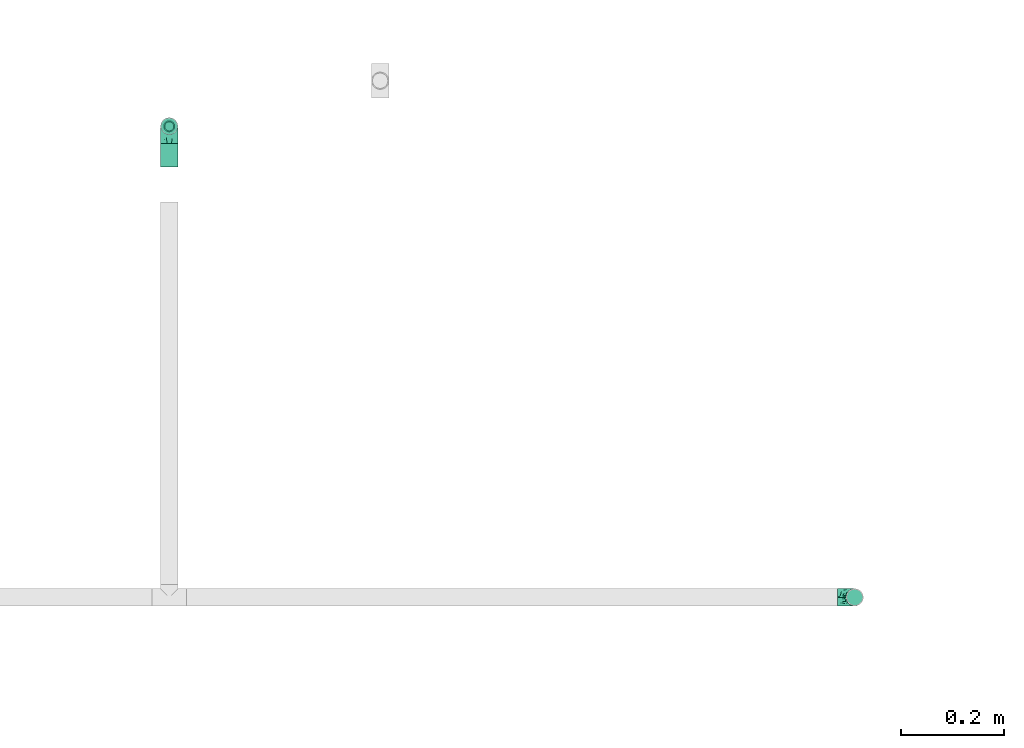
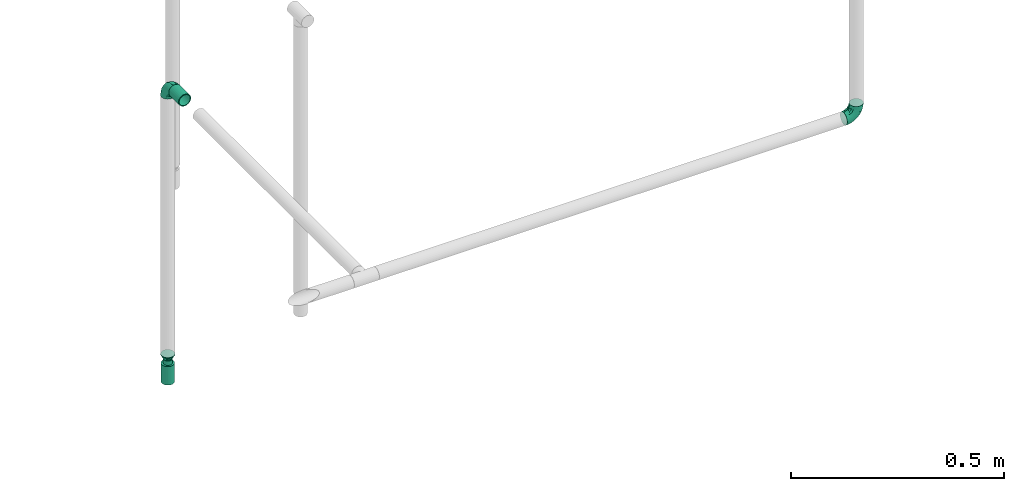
# One storey, part 51 of 94: 3 flow fittings, 2 flow segments, 1 flow terminal.
"""IFC2X3 building model written with IfcOpenShell, lengths in millimetres."""

from ifc_helpers import new_model, entity, si_unit, converted_unit, derived_unit, direction, frame, origin_with_axes, origin_2d_with_axis, place, context, subcontext, project, spatial, hollow_circle, extrude, open_shell, surface_model, source, transform, mapped, type_object, element, save


model = new_model("IFC2X3")

# Units and contexts
model_context = context("Model", 3, precision=0.01, world=frame((0.0, 4.29681676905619e-09, 0.0)), true_north=direction((4.01073788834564e-13, 1.0)))
plan_context = context("Plan", 3, precision=0.01, world=frame((0.0, 4.29681676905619e-09, 0.0)), true_north=direction((4.01073788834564e-13, 1.0)))
body_context = subcontext(model_context, "Body", "Model", "MODEL_VIEW")
ifc_project = project(units=[converted_unit("PLANEANGLEUNIT", "DEGREE", entity("IfcPositiveLengthMeasure", 0.0174532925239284), si_unit("PLANEANGLEUNIT", "RADIAN"), dimensions=[0, 0, 0, 0, 0, 0, 0]), si_unit("AREAUNIT", "SQUARE_METRE"), si_unit("LENGTHUNIT", "METRE", prefix="MILLI"), si_unit("MASSUNIT", "GRAM", prefix="KILO"), si_unit("POWERUNIT", "WATT"), si_unit("PRESSUREUNIT", "PASCAL", prefix="KILO"), si_unit("FORCEUNIT", "NEWTON", prefix="KILO"), si_unit("ELECTRICVOLTAGEUNIT", "VOLT"), si_unit("ELECTRICCURRENTUNIT", "AMPERE"), si_unit("THERMODYNAMICTEMPERATUREUNIT", "DEGREE_CELSIUS"), si_unit("TIMEUNIT", "SECOND"), si_unit("VOLUMEUNIT", "CUBIC_METRE"), derived_unit("LINEARVELOCITYUNIT", [(si_unit("LENGTHUNIT", "METRE"), 1), (si_unit("TIMEUNIT", "SECOND"), -1)]), derived_unit("VOLUMETRICFLOWRATEUNIT", [(si_unit("VOLUMEUNIT", "CUBIC_METRE"), 1), (si_unit("TIMEUNIT", "SECOND"), -1)]), derived_unit("THERMALTRANSMITTANCEUNIT", [(si_unit("POWERUNIT", "WATT"), 1), (si_unit("THERMODYNAMICTEMPERATUREUNIT", "KELVIN"), -1), (si_unit("AREAUNIT", "SQUARE_METRE"), -1)]), derived_unit("SOUNDPRESSUREUNIT", [(si_unit("PRESSUREUNIT", "PASCAL"), 1)])], contexts=[model_context, plan_context])

# Site, building, storey
site_placement = place(None, frame((0.0, -4.29681676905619e-09, 0.0), z_axis=(0.0, 0.0, 1.0), x_axis=(1.0, 0.0, 0.0)))
site = spatial("IfcSite", under=ifc_project, at=site_placement, CompositionType="ELEMENT")
building_placement = place(site_placement, frame((0.0, 4.29681676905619e-09, 0.0), z_axis=(0.0, 0.0, 1.0), x_axis=(1.0, 0.0, 0.0)))
building = spatial("IfcBuilding", under=site, at=building_placement, Name="mc-building", CompositionType="ELEMENT")
storey_placement = place(building_placement, frame((0.0, 0.0, 210900.0), z_axis=(0.0, 0.0, 1.0), x_axis=(1.0, 0.0, 0.0)))
storey = spatial("IfcBuildingStorey", under=building, at=storey_placement, Name="Nivå F", CompositionType="ELEMENT", Elevation=210900.0)

# Flow fittings
pipe_fitting_type_1 = type_object("IfcPipeFittingType", Name="magi_pipe_fe_elbow_short_001", PredefinedType="BEND")
shared_shape_1 = source(origin_with_axes(), body_context, "Body", "SurfaceModel", [
    surface_model("IfcShellBasedSurfaceModel", [(-33.8, 8.45, -14.63583), (-33.8, 4.37404, -16.32415), (-33.8, 11.9501, -11.9501), (-33.8, -11.9501, -11.9501), (-33.8, -14.63583, -8.45), (-33.8, -8.45, -14.63583), (-33.8, 0.0, -16.9), (-33.8, -4.37404, -16.32415), (-33.8, -4.37404, 16.32415), (-33.8, 0.0, 16.9), (-33.8, -8.45, 14.63583), (-33.8, 16.32415, -4.37404), (-33.8, 14.63583, -8.45), (-33.8, -16.32415, -4.37404), (-33.8, -16.9, 0.0), (-33.8, -16.32415, 4.37404), (-33.8, 11.9501, 11.9501), (-33.8, 14.63583, 8.45), (-33.8, 16.32415, 4.37404), (-33.8, 4.37404, 16.32415), (-33.8, 8.45, 14.63583), (-33.8, -14.63583, 8.45), (-33.8, -11.9501, 11.9501), (-33.8, 16.9, 0.0), (-11.9501, 33.8, -11.9501), (0.0, 33.8, -16.9), (-4.37404, 33.8, -16.32415), (-8.45, 33.8, -14.63583), (-14.63583, 33.8, -8.45), (-16.32415, 33.8, -4.37404), (14.63583, 33.8, -8.45), (8.45, 33.8, 14.63583), (16.32415, 33.8, -4.37404), (8.45, 33.8, -14.63583), (11.9501, 33.8, -11.9501), (4.37404, 33.8, -16.32415), (16.32415, 33.8, 4.37404), (16.9, 33.8, 0.0), (-11.9501, 33.8, 11.9501), (-16.32415, 33.8, 4.37404), (-14.63583, 33.8, 8.45), (-8.45, 33.8, 14.63583), (-4.37404, 33.8, 16.32415), (11.9501, 33.8, 11.9501), (14.63583, 33.8, 8.45), (0.0, 33.8, 16.9), (4.37404, 33.8, 16.32415), (-16.9, 33.8, 0.0), (-24.79389, -13.12945, 9.48721), (-22.19287, -9.75018, 12.59315), (-24.09897, -14.97035, 0.0), (-14.93934, -10.76256, 8.5297), (-22.46095, -14.75051, 5.27077), (14.75051, 22.46094, 5.27077), (11.9251, 13.23888, 4.33236), (13.04069, 14.39795, 0.0), (7.71387, 13.68847, 11.55891), (9.75018, 22.19287, 12.59315), (4.10169, 13.0571, 14.04018), (-24.84007, -6.39063, 15.2048), (-25.81779, -2.23879, 16.61097), (-23.66549, 2.59054, 16.87119), (-26.50418, 14.06512, 11.08152), (-24.21253, 17.66365, 7.72657), (-29.58514, 15.86957, 7.00283), (-6.17382, -7.5455, 0.0), (-13.23888, -11.9251, 4.33236), (-14.39795, -13.04069, 0.0), (-17.81434, 18.87373, 11.97104), (-6.30846, 29.15138, 15.82987), (-2.31622, 25.28002, 16.85849), (-29.23923, 10.23435, 13.77053), (-1.45439, -2.85688, 7.61475), (-0.28326, 0.34872, 10.09509), (-5.74484, -4.04709, 10.4122), (-4.41137, 11.31918, 16.59407), (-8.39727, 3.10034, 15.7812), (-1.72649, 9.1306, 15.53089), (-17.39909, 24.75344, 7.64977), (-26.19233, 20.0512, 0.0), (-28.14518, 17.29657, 4.25857), (-26.05147, 6.6281, 15.96447), (-5.87354, 16.61944, 16.86968), (-12.51807, 12.51807, 16.48937), (-10.06312, 7.38516, 16.81295), (-3.01882, 3.01882, 13.81718), (-13.0571, -4.10169, 14.04018), (-16.82553, -0.15166, 16.38038), (10.76256, 14.93934, 8.5297), (13.12945, 24.79389, 9.48721), (6.39063, 24.84007, 15.2048), (2.23879, 25.81779, 16.61097), (-13.68847, -7.71387, 11.55891), (14.97035, 24.09897, 0.0), (-7.30894, 22.89991, 16.09489), (-10.67958, 26.17414, 14.008), (-12.78295, 18.26924, 15.06066), (-13.88562, 22.45231, 12.93244), (-18.04944, 15.16501, 14.04434), (-23.11658, 20.08178, 4.02986), (-21.84989, 21.84989, 0.0), (-18.55817, 25.48277, 3.93065), (-13.95142, 26.94732, 11.03289), (-18.57098, 7.23906, 16.59756), (-16.58335, 4.14122, 16.89279), (-17.96666, 11.46709, 15.63151), (-9.84453, 17.54304, 16.18938), (0.15166, 16.82553, 16.38038), (-23.27207, 11.47201, 14.23154), (3.84842, 5.86994, 10.70473), (-8.0212, -7.54413, 7.93275), (1.00345, -2.19508, 4.57414), (5.13203, 3.01004, 5.90201), (5.24161, 1.7543, 2.53265), (8.70457, 7.04947, 3.99182), (-20.0512, 26.19233, 0.0), (8.4852, 8.76699, 7.09296), (-4.55488, -6.72064, 4.90681), (2.05031, -2.05031, 0.0), (7.5455, 6.17382, 0.0), (-26.75399, 2.1369, -16.845), (-14.61995, 24.73803, -11.27736), (-28.45274, -13.45335, -9.81895), (-26.00469, 6.63555, -15.96645), (-23.06726, 20.04573, -4.26202), (-13.80647, -4.26506, -14.17873), (-14.67501, -0.21081, -16.07388), (-6.7902, -0.2828, -13.8478), (-24.53586, 11.08096, -14.13417), (-26.72048, 14.00837, -11.05776), (10.0967, 24.44989, -12.75976), (5.83237, 21.40218, -15.03047), (6.66249, 28.54238, -15.38093), (-20.38182, 15.48705, -12.74596), (12.53268, 21.23441, -9.15363), (12.54494, 15.67504, -5.54878), (9.7522, 12.89279, -8.66343), (-15.65186, 19.64213, -13.01327), (-12.03528, 20.66498, -14.67665), (-15.61907, 15.61906, -14.83879), (-25.56551, -15.26206, 0.0), (-24.65452, -15.12934, -5.50955), (13.45335, 28.45274, -9.81895), (15.12934, 24.65452, -5.50955), (-7.35442, -8.31014, -5.65563), (-15.67504, -12.54494, -5.54878), (-24.44989, -10.0967, -12.75976), (0.16522, 0.41303, -9.71728), (-5.70658, -5.33066, -8.89288), (-5.13869, -2.37198, -11.53565), (-21.23441, -12.53268, -9.15363), (0.71146, 7.93863, -14.09382), (0.21081, 14.67501, -16.07388), (3.49291, 14.42772, -14.76381), (-24.89911, -2.13088, -16.591), (-28.54238, -6.66249, -15.38093), (-18.44386, -7.71663, -13.26957), (2.13088, 24.89911, -16.591), (-28.64342, 17.44413, -2.89318), (1.70017, -1.28722, -5.09504), (-16.57067, 26.81947, -7.36596), (-17.69055, 27.4263, -3.76405), (-12.89279, -9.7522, -8.66343), (-5.96611, 5.96611, -15.95814), (-20.53709, 20.09345, -8.28985), (-2.1369, 26.75399, -16.845), (-6.89872, 24.58781, -16.02578), (-10.60739, 26.53157, -13.98044), (-21.40218, -5.83237, -15.03047), (2.93192, 5.89627, -11.55917), (6.89393, 12.61842, -11.82233), (5.58056, 5.95325, -8.79455), (-3.99512, 18.61798, -16.89635), (8.31014, 7.35442, -5.65563), (-9.1383, 9.86148, -16.89041), (-9.99983, 16.02119, -16.39699), (-16.68576, 9.78031, -16.34199), (-27.01915, 16.61158, -7.12979), (15.26206, 25.56551, 0.0), (-18.61798, 3.99512, -16.89635), (-19.37495, 27.82495, 0.0), (-12.61842, -6.89393, -11.82233), (-18.84705, 19.14018, -10.96545)], [open_shell([[[0, 1, 2]], [[3, 4, 5]], [[6, 7, 5]], [[8, 9, 10]], [[1, 6, 2]], [[11, 12, 2]], [[4, 2, 6]], [[2, 13, 10]], [[5, 4, 6]], [[2, 4, 13]], [[14, 15, 13]], [[11, 2, 16]], [[11, 17, 18]], [[11, 16, 17]], [[19, 20, 16]], [[16, 2, 10]], [[19, 16, 10]], [[21, 22, 15]], [[22, 13, 15]], [[22, 10, 13]], [[10, 9, 19]], [[11, 18, 23]], [[24, 25, 26]], [[24, 26, 27]], [[24, 28, 29]], [[25, 24, 30]], [[31, 32, 24]], [[33, 30, 34]], [[33, 35, 25]], [[25, 30, 33]], [[32, 30, 24]], [[32, 36, 37]], [[38, 24, 29]], [[39, 40, 29]], [[40, 38, 29]], [[38, 41, 42]], [[38, 31, 24]], [[31, 38, 42]], [[36, 43, 44]], [[36, 32, 43]], [[31, 45, 46]], [[32, 31, 43]], [[42, 45, 31]], [[39, 29, 47]], [[22, 48, 49]], [[15, 14, 50]], [[51, 48, 52]], [[53, 54, 55]], [[48, 22, 21]], [[15, 52, 21]], [[56, 57, 58]], [[49, 10, 22]], [[49, 59, 10]], [[9, 60, 61]], [[62, 63, 64]], [[65, 66, 67]], [[57, 43, 31]], [[62, 68, 63]], [[42, 69, 70]], [[20, 71, 16]], [[8, 60, 9]], [[72, 73, 74]], [[75, 76, 77]], [[16, 62, 17]], [[40, 39, 78]], [[79, 23, 80]], [[64, 18, 17]], [[9, 61, 19]], [[19, 81, 20]], [[82, 83, 84]], [[74, 85, 86]], [[59, 86, 87]], [[88, 89, 57]], [[90, 31, 46]], [[44, 53, 36]], [[46, 45, 91]], [[54, 53, 88]], [[44, 89, 53]], [[92, 86, 49]], [[89, 44, 43]], [[10, 59, 8]], [[53, 55, 93]], [[93, 36, 53]], [[66, 52, 67]], [[94, 82, 70]], [[95, 96, 94]], [[97, 98, 96]], [[79, 99, 100]], [[41, 38, 95]], [[101, 100, 99]], [[68, 78, 63]], [[42, 41, 69]], [[23, 18, 80]], [[95, 94, 69]], [[78, 101, 99]], [[38, 102, 95]], [[70, 45, 42]], [[97, 95, 102]], [[15, 50, 52]], [[90, 57, 31]], [[57, 90, 58]], [[81, 19, 61]], [[103, 104, 84]], [[105, 81, 103]], [[38, 40, 102]], [[106, 96, 83]], [[94, 106, 82]], [[91, 70, 107]], [[71, 62, 16]], [[62, 108, 98]], [[86, 59, 49]], [[67, 52, 50]], [[60, 59, 87]], [[92, 49, 51]], [[86, 85, 76]], [[91, 90, 46]], [[37, 36, 93]], [[107, 77, 58]], [[107, 58, 90]], [[58, 85, 109]], [[110, 74, 92]], [[72, 74, 110]], [[66, 51, 52]], [[72, 111, 112]], [[113, 114, 112]], [[56, 88, 57]], [[52, 48, 21]], [[49, 48, 51]], [[57, 89, 43]], [[53, 89, 88]], [[103, 81, 61]], [[71, 81, 108]], [[18, 64, 80]], [[63, 78, 99]], [[47, 115, 101]], [[101, 115, 100]], [[40, 78, 102]], [[68, 102, 78]], [[97, 96, 95]], [[105, 98, 108]], [[103, 84, 83]], [[107, 70, 82]], [[76, 84, 87]], [[82, 84, 75]], [[70, 91, 45]], [[90, 91, 107]], [[59, 60, 8]], [[61, 60, 87]], [[73, 85, 74]], [[109, 112, 116]], [[103, 61, 104]], [[105, 103, 83]], [[96, 105, 83]], [[81, 105, 108]], [[96, 98, 105]], [[62, 98, 68]], [[61, 87, 104]], [[87, 84, 104]], [[86, 76, 87]], [[77, 76, 85]], [[58, 77, 85]], [[75, 77, 107]], [[82, 75, 107]], [[76, 75, 84]], [[81, 71, 20]], [[62, 71, 108]], [[95, 69, 41]], [[70, 69, 94]], [[62, 64, 17]], [[80, 63, 99]], [[63, 80, 64]], [[80, 99, 79]], [[66, 65, 117]], [[110, 66, 117]], [[112, 114, 116]], [[118, 117, 65]], [[110, 92, 51]], [[112, 111, 113]], [[119, 55, 54]], [[74, 86, 92]], [[58, 109, 56]], [[116, 56, 109]], [[66, 110, 51]], [[72, 110, 117]], [[111, 72, 117]], [[73, 112, 109]], [[117, 118, 111]], [[113, 111, 118]], [[118, 119, 113]], [[114, 119, 54]], [[119, 114, 113]], [[116, 54, 88]], [[54, 116, 114]], [[116, 88, 56]], [[112, 73, 72]], [[85, 73, 109]], [[78, 39, 101]], [[47, 101, 39]], [[102, 68, 97]], [[97, 68, 98]], [[82, 106, 83]], [[94, 96, 106]], [[1, 120, 6]], [[28, 24, 121]], [[3, 122, 4]], [[0, 123, 1]], [[100, 124, 79]], [[125, 126, 127]], [[128, 2, 129]], [[130, 131, 132]], [[128, 129, 133]], [[134, 135, 136]], [[137, 138, 139]], [[128, 0, 2]], [[67, 140, 141]], [[134, 142, 143]], [[141, 13, 4]], [[144, 65, 145]], [[146, 3, 5]], [[147, 148, 149]], [[145, 141, 150]], [[151, 152, 153]], [[154, 7, 6]], [[5, 155, 146]], [[150, 146, 156]], [[155, 5, 7]], [[143, 135, 134]], [[35, 157, 25]], [[23, 79, 158]], [[148, 159, 144]], [[160, 161, 29]], [[145, 162, 144]], [[163, 152, 151]], [[29, 28, 160]], [[121, 164, 160]], [[33, 34, 130]], [[25, 165, 26]], [[26, 165, 166]], [[142, 34, 30]], [[24, 27, 167]], [[124, 161, 164]], [[157, 35, 132]], [[155, 154, 168]], [[123, 0, 128]], [[169, 170, 171]], [[172, 157, 152]], [[26, 166, 27]], [[132, 35, 33]], [[142, 130, 34]], [[168, 154, 126]], [[136, 135, 173]], [[133, 137, 139]], [[2, 12, 129]], [[170, 131, 130]], [[30, 32, 143]], [[172, 174, 175]], [[176, 123, 128]], [[158, 177, 11]], [[135, 55, 119]], [[167, 27, 166]], [[175, 166, 172]], [[137, 167, 138]], [[122, 141, 4]], [[140, 14, 13]], [[32, 37, 178]], [[170, 130, 134]], [[152, 157, 131]], [[165, 157, 172]], [[153, 170, 151]], [[152, 163, 174]], [[168, 125, 156]], [[122, 146, 150]], [[120, 154, 6]], [[179, 174, 126]], [[179, 126, 154]], [[126, 163, 127]], [[162, 145, 150]], [[140, 13, 141]], [[32, 178, 143]], [[55, 143, 178]], [[177, 129, 12]], [[128, 133, 139]], [[176, 128, 139]], [[120, 123, 179]], [[121, 160, 28]], [[161, 100, 180]], [[166, 175, 138]], [[121, 24, 167]], [[161, 47, 29]], [[79, 124, 158]], [[124, 164, 177]], [[161, 124, 100]], [[136, 171, 170]], [[127, 163, 151]], [[147, 171, 159]], [[148, 144, 162]], [[127, 151, 169]], [[127, 181, 125]], [[129, 177, 164]], [[12, 11, 177]], [[159, 65, 144]], [[67, 141, 145]], [[143, 55, 135]], [[135, 119, 173]], [[123, 120, 1]], [[154, 120, 179]], [[157, 165, 25]], [[166, 165, 172]], [[172, 152, 174]], [[176, 139, 175]], [[126, 174, 163]], [[176, 174, 179]], [[174, 176, 175]], [[123, 176, 179]], [[150, 181, 162]], [[127, 149, 181]], [[181, 148, 162]], [[159, 148, 147]], [[171, 136, 173]], [[170, 134, 136]], [[159, 171, 173]], [[171, 147, 169]], [[169, 147, 149]], [[151, 170, 169]], [[164, 182, 129]], [[182, 121, 137]], [[181, 149, 148]], [[169, 149, 127]], [[182, 137, 133]], [[167, 137, 121]], [[166, 138, 167]], [[175, 139, 138]], [[129, 182, 133]], [[121, 182, 164]], [[161, 160, 164]], [[47, 161, 180]], [[177, 158, 124]], [[23, 158, 11]], [[130, 132, 33]], [[157, 132, 131]], [[143, 142, 30]], [[130, 142, 134]], [[154, 155, 7]], [[146, 155, 168]], [[146, 122, 3]], [[141, 122, 150]], [[152, 131, 153]], [[159, 119, 118]], [[67, 145, 65]], [[170, 153, 131]], [[119, 159, 173]], [[159, 118, 65]], [[156, 125, 181]], [[126, 125, 168]], [[150, 156, 181]], [[168, 156, 146]]])]),
])
for number, where, z_axis, x_axis, name in (
    (1, (725923.83068, 435194.37907, 3600.0), (0.0, -1.0, 0.0), (1.0, 0.0, 0.0), "magi_pipe_fe_elbow_short_001"),
    (2, (724589.39723, 436111.22907, 3600.0), (-1.0, 0.0, 0.0), (0.0, 1.0, 0.0), "magi_pipe_fe_elbow_short_001"),
):
    element("IfcFlowFitting", number, at=place(storey_placement, frame(where, z_axis=z_axis, x_axis=x_axis)), inside=storey, type_object=pipe_fitting_type_1, Name=name, context=body_context, shape_type="MappedRepresentation", body=[
        mapped(shared_shape_1, transform((0.0, 0.0, 0.0), scale=1.0)),
    ])
pipe_fitting_type_2 = type_object("IfcPipeFittingType", Name="magi_pipe_fe_reducer_centric_short_NOR", PredefinedType="TRANSITION")
shared_shape_2 = source(origin_with_axes(), body_context, "Body", "SurfaceModel", [
    surface_model("IfcShellBasedSurfaceModel", [(-2.0, -7.56604, -7.56604), (-2.0, -10.33541, -2.76936), (-2.0, -5.35, -9.26647), (-2.0, 5.35, -9.26647), (-2.0, 10.33541, -2.76936), (-2.0, 7.56604, -7.56604), (12.4, 11.9501, 11.9501), (12.4, 0.0, 16.9), (12.4, 11.9501, -11.9501), (12.4, 16.9, 0.0), (0.0, -10.7, 0.0), (0.0, -5.35, 9.26647), (0.0, -5.35, -9.26647), (0.0, 10.7, 0.0), (12.4, 15.66253, -2.98753), (12.4, 8.96258, -13.18758), (0.0, 6.6875, -6.94985), (12.4, -15.66253, -2.98753), (12.4, -16.9, 0.0), (12.4, 5.97505, -14.42505), (0.0, 5.35, -9.26647), (12.4, 14.42505, -5.97505), (0.0, 8.025, -4.63324), (0.0, 9.3625, -2.31662), (0.0, -9.3625, -2.31662), (0.0, -8.025, -4.63324), (12.4, -14.42505, -5.97505), (12.4, 13.18758, -8.96258), (12.4, -13.18758, -8.96258), (12.4, -11.9501, -11.9501), (0.0, -6.6875, -6.94985), (12.4, -8.96258, -13.18758), (12.4, -5.97505, -14.42505), (12.4, -15.66253, 2.98753), (12.4, -8.96258, 13.18758), (0.0, -6.6875, 6.94985), (12.4, -11.9501, 11.9501), (12.4, 15.66253, 2.98753), (12.4, -5.97505, 14.42505), (12.4, -14.42505, 5.97505), (0.0, -8.025, 4.63324), (0.0, -9.3625, 2.31662), (0.0, 9.3625, 2.31662), (0.0, 8.025, 4.63324), (12.4, 14.42505, 5.97505), (12.4, -13.18758, 8.96258), (12.4, 13.18758, 8.96258), (0.0, 6.6875, 6.94985), (12.4, 8.96258, 13.18758), (0.0, 5.35, 9.26647), (12.4, 5.97505, 14.42505), (14.4, 4.37404, -16.32415), (14.4, 8.45, -14.63583), (14.4, 11.9501, -11.9501), (14.4, -8.45, -14.63583), (14.4, 16.32415, -4.37404), (14.4, 16.32415, 4.37404), (14.4, 14.63583, -8.45), (14.4, 0.0, -16.9), (14.4, -4.37404, -16.32415), (14.4, -11.9501, -11.9501), (14.4, -16.32415, -4.37404), (14.4, -14.63583, -8.45), (14.4, -16.32415, 4.37404), (14.4, 16.9, 0.0), (14.4, 14.63583, 8.45), (14.4, 11.9501, 11.9501), (14.4, 4.37404, 16.32415), (14.4, 8.45, 14.63583), (14.4, 0.0, 16.9), (14.4, -14.63583, 8.45), (14.4, -16.9, 0.0), (14.4, -8.45, 14.63583), (14.4, -11.9501, 11.9501), (14.4, -4.37404, 16.32415), (12.4, 4.37404, 16.32415), (12.4, -14.63583, 8.45), (12.4, 16.32415, 4.37404), (12.4, 8.45, 14.63583), (12.4, 14.63583, 8.45), (12.4, -8.45, 14.63583), (12.4, -4.37404, 16.32415), (12.4, -16.32415, 4.37404), (12.4, -16.32415, -4.37404), (12.4, -8.45, -14.63583), (12.4, 16.32415, -4.37404), (12.4, 14.63583, -8.45), (12.4, 8.45, -14.63583), (12.4, 4.37404, -16.32415), (12.4, 0.0, -16.9), (12.4, -14.63583, -8.45), (12.4, -4.37404, -16.32415), (-2.0, 2.76936, 10.33541), (-2.0, 0.0, 10.7), (-2.0, 5.35, 9.26647), (-2.0, 7.56604, 7.56604), (-2.0, 9.26647, 5.35), (-2.0, 10.33541, 2.76936), (-2.0, -10.33541, 2.76936), (-2.0, -2.76936, 10.33541), (-2.0, -7.56604, 7.56604), (-2.0, -5.35, 9.26647), (-2.0, -9.26647, 5.35), (-2.0, -10.7, 0.0), (-2.0, 9.26647, -5.35), (-2.0, 2.76936, -10.33541), (-2.0, -9.26647, -5.35), (-2.0, 0.0, -10.7), (-2.0, -2.76936, -10.33541), (-2.0, 10.7, 0.0), (0.0, 0.0, -10.7), (0.0, 2.76936, -10.33541), (0.0, 10.33541, -2.76936), (0.0, 7.56604, -7.56604), (0.0, -10.33541, -2.76936), (0.0, 9.26647, -5.35), (0.0, 0.0, 10.7), (0.0, -2.76936, -10.33541), (0.0, -7.56604, -7.56604), (0.0, -9.26647, -5.35), (0.0, 10.33541, 2.76936), (0.0, 9.26647, 5.35), (0.0, 7.56604, 7.56604), (0.0, 2.76936, 10.33541), (0.0, -7.56604, 7.56604), (0.0, -10.33541, 2.76936), (0.0, -9.26647, 5.35), (0.0, -2.76936, 10.33541), (0.0, 2.675, -9.26647), (0.0, -2.675, -9.26647), (12.4, 2.98753, -15.66253), (0.0, 0.0, -9.26647), (12.4, -2.98753, -15.66253), (0.0, -2.675, 9.26647), (0.0, 2.675, 9.26647), (12.4, -2.98753, 15.66253), (0.0, 0.0, 9.26647), (12.4, 2.98753, 15.66253)], [open_shell([[[0, 1, 2]], [[3, 4, 5]], [[6, 7, 8]], [[8, 9, 6]], [[10, 11, 12]], [[13, 9, 14]], [[15, 16, 8]], [[17, 18, 10]], [[15, 19, 20]], [[21, 22, 23]], [[24, 25, 26]], [[22, 21, 27]], [[28, 26, 25]], [[29, 30, 31]], [[12, 32, 31]], [[10, 18, 33]], [[34, 35, 36]], [[37, 9, 13]], [[34, 38, 11]], [[39, 40, 41]], [[42, 43, 44]], [[40, 39, 45]], [[46, 44, 43]], [[6, 47, 48]], [[49, 50, 48]], [[51, 52, 53]], [[54, 51, 53]], [[53, 55, 56]], [[55, 53, 57]], [[53, 56, 54]], [[58, 54, 59]], [[58, 51, 54]], [[60, 61, 62]], [[61, 60, 54]], [[54, 63, 61]], [[56, 55, 64]], [[56, 65, 66]], [[56, 66, 67]], [[67, 63, 54]], [[67, 66, 68]], [[63, 67, 69]], [[69, 70, 63]], [[71, 61, 63]], [[70, 72, 73]], [[70, 69, 72]], [[72, 69, 74]], [[54, 56, 67]], [[75, 76, 7]], [[77, 75, 78]], [[6, 79, 77]], [[6, 77, 78]], [[76, 75, 77]], [[80, 76, 36]], [[80, 81, 7]], [[7, 76, 80]], [[82, 76, 77]], [[82, 83, 18]], [[82, 77, 84]], [[77, 85, 8]], [[8, 85, 86]], [[8, 87, 88]], [[84, 77, 8]], [[88, 89, 8]], [[83, 29, 90]], [[29, 83, 84]], [[84, 89, 91]], [[83, 82, 84]], [[8, 89, 84]], [[85, 77, 9]], [[83, 61, 18]], [[90, 62, 83]], [[54, 29, 84]], [[90, 29, 60]], [[59, 84, 91]], [[83, 62, 61]], [[61, 71, 18]], [[59, 54, 84]], [[60, 29, 54]], [[60, 62, 90]], [[58, 59, 91]], [[91, 89, 58]], [[88, 51, 89]], [[87, 52, 88]], [[57, 8, 86]], [[87, 8, 53]], [[55, 86, 85]], [[87, 53, 52]], [[52, 51, 88]], [[64, 55, 85]], [[57, 86, 55]], [[57, 53, 8]], [[9, 64, 85]], [[89, 51, 58]], [[77, 56, 9]], [[79, 65, 77]], [[68, 6, 78]], [[79, 6, 66]], [[67, 78, 75]], [[77, 65, 56]], [[56, 64, 9]], [[67, 68, 78]], [[66, 6, 68]], [[66, 65, 79]], [[69, 67, 75]], [[75, 7, 69]], [[81, 74, 7]], [[80, 72, 81]], [[70, 36, 76]], [[80, 36, 73]], [[63, 76, 82]], [[80, 73, 72]], [[72, 74, 81]], [[71, 63, 82]], [[70, 76, 63]], [[70, 73, 36]], [[18, 71, 82]], [[7, 74, 69]], [[92, 1, 93]], [[94, 1, 92]], [[95, 96, 97]], [[95, 97, 94]], [[98, 93, 1]], [[99, 100, 101]], [[99, 93, 100]], [[100, 98, 102]], [[93, 98, 100]], [[98, 1, 103]], [[94, 97, 1]], [[1, 97, 4]], [[5, 4, 104]], [[4, 3, 1]], [[105, 1, 3]], [[1, 0, 106]], [[2, 107, 108]], [[2, 1, 105]], [[105, 107, 2]], [[4, 97, 109]], [[20, 110, 111]], [[112, 20, 113]], [[114, 20, 112]], [[112, 113, 115]], [[116, 114, 112]], [[110, 12, 117]], [[110, 20, 12]], [[118, 114, 119]], [[114, 118, 12]], [[20, 114, 12]], [[112, 13, 120]], [[120, 121, 122]], [[120, 122, 123]], [[116, 112, 123]], [[123, 122, 49]], [[116, 124, 114]], [[125, 124, 126]], [[10, 114, 125]], [[124, 127, 11]], [[125, 114, 124]], [[127, 124, 116]], [[123, 112, 120]], [[1, 114, 103]], [[106, 119, 1]], [[12, 0, 2]], [[106, 0, 118]], [[117, 2, 108]], [[1, 119, 114]], [[114, 10, 103]], [[117, 12, 2]], [[118, 0, 12]], [[118, 119, 106]], [[110, 117, 108]], [[108, 107, 110]], [[105, 111, 107]], [[3, 20, 105]], [[115, 5, 104]], [[3, 5, 113]], [[112, 104, 4]], [[3, 113, 20]], [[20, 111, 105]], [[13, 112, 4]], [[115, 104, 112]], [[115, 113, 5]], [[109, 13, 4]], [[107, 111, 110]], [[97, 120, 109]], [[96, 121, 97]], [[49, 95, 94]], [[96, 95, 122]], [[123, 94, 92]], [[97, 121, 120]], [[120, 13, 109]], [[123, 49, 94]], [[122, 95, 49]], [[122, 121, 96]], [[116, 123, 92]], [[92, 93, 116]], [[99, 127, 93]], [[101, 11, 99]], [[126, 100, 102]], [[101, 100, 124]], [[125, 102, 98]], [[101, 124, 11]], [[11, 127, 99]], [[10, 125, 98]], [[126, 102, 125]], [[126, 124, 100]], [[103, 10, 98]], [[93, 127, 116]], [[18, 7, 36]], [[18, 29, 8]], [[89, 8, 29]], [[18, 8, 7]], [[13, 11, 49]], [[13, 20, 12]], [[13, 12, 11]], [[24, 26, 17]], [[10, 24, 17]], [[16, 15, 20]], [[30, 12, 31]], [[23, 14, 21]], [[19, 128, 20]], [[27, 8, 16]], [[32, 12, 129]], [[30, 28, 25]], [[130, 131, 128]], [[129, 132, 32]], [[16, 22, 27]], [[13, 14, 23]], [[128, 19, 130]], [[130, 89, 131]], [[131, 132, 129]], [[89, 132, 131]], [[28, 30, 29]], [[42, 44, 37]], [[13, 42, 37]], [[35, 34, 11]], [[47, 49, 48]], [[41, 33, 39]], [[38, 133, 11]], [[45, 36, 35]], [[50, 49, 134]], [[47, 46, 43]], [[135, 136, 133]], [[134, 137, 50]], [[35, 40, 45]], [[10, 33, 41]], [[133, 38, 135]], [[135, 7, 136]], [[136, 137, 134]], [[7, 137, 136]], [[46, 47, 6]]])]),
])
flow_fitting_placement = place(storey_placement, frame((724589.39723, 436111.22907, 2812.152), z_axis=(0.0, 1.0, 0.0), x_axis=(0.0, 0.0, 1.0)))
element("IfcFlowFitting", 3, at=flow_fitting_placement, inside=storey, type_object=pipe_fitting_type_2, Name="magi_pipe_fe_reducer_centric_short_NOR", context=body_context, shape_type="MappedRepresentation", body=[
    mapped(shared_shape_2, transform((0.0, 0.0, 0.0), scale=1.0)),
])

# Flow segments
pipe_segment_type = type_object("IfcPipeSegmentType", Name="Stålrør normaltykke", PredefinedType="RIGIDSEGMENT")
shared_shape_3 = source(origin_with_axes(), body_context, "Body", "SweptSolid", [
    extrude(hollow_circle(Radius=16.9, WallThickness=2.0, at=origin_2d_with_axis()), frame((0.0, 0.0, 0.0), z_axis=(1.0, 0.0, 0.0), x_axis=(0.0, 1.0, 0.0)), (0.0, 0.0, 1.0), 45.6),
])
flow_segment_1_placement = place(storey_placement, frame((724589.39723, 436031.83458, 3600.0), z_axis=(0.0, 0.0, 1.0), x_axis=(0.0, 1.0, 0.0)))
element("IfcFlowSegment", 4, at=flow_segment_1_placement, inside=storey, type_object=pipe_segment_type, Name="Stålrør normaltykke", context=body_context, shape_type="MappedRepresentation", body=[
    mapped(shared_shape_3, transform((0.0, 0.0, 0.0), scale=1.0)),
])
shared_shape_4 = source(origin_with_axes(), body_context, "Body", "SweptSolid", [
    extrude(hollow_circle(Radius=10.7, WallThickness=2.0, at=origin_2d_with_axis()), frame((0.0, 0.0, 0.0), z_axis=(1.0, 0.0, 0.0), x_axis=(0.0, 1.0, 0.0)), (0.0, 0.0, 1.0), 15.2),
])
flow_segment_2_placement = place(storey_placement, frame((724589.39723, 436111.22907, 2796.95199999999), z_axis=(0.0, 1.0, 0.0), x_axis=(0.0, 0.0, 1.0)))
element("IfcFlowSegment", 5, at=flow_segment_2_placement, inside=storey, type_object=pipe_segment_type, Name="Stålrør normaltykke", context=body_context, shape_type="MappedRepresentation", body=[
    mapped(shared_shape_4, transform((0.0, 0.0, 0.0), scale=1.0)),
])

# Flow terminal
fire_suppression_terminal_type = type_object("IfcFireSuppressionTerminalType", Name="SP-15-K80-68DGR-STD-HIMLING", PredefinedType="NOTDEFINED")
shared_shape_5 = source(origin_with_axes(), body_context, "Body", "SurfaceModel", [
    surface_model("IfcShellBasedSurfaceModel", [(4.1411, -15.45481, 53.0), (8.0, -13.85641, 53.0), (11.31371, -11.31371, 53.0), (-8.0, -13.85641, 53.0), (15.45481, -4.1411, 53.0), (16.0, 0.0, 53.0), (13.85641, -8.0, 53.0), (0.0, -16.0, 53.0), (-4.1411, -15.45481, 53.0), (-13.85641, -8.0, 53.0), (-11.31371, -11.31371, 53.0), (-15.45481, -4.1411, 53.0), (15.45481, 4.1411, 53.0), (13.85641, 8.0, 53.0), (11.31371, 11.31371, 53.0), (-4.1411, 15.45481, 53.0), (8.0, 13.85641, 53.0), (4.1411, 15.45481, 53.0), (0.0, 16.0, 53.0), (-13.85641, 8.0, 53.0), (-15.45481, 4.1411, 53.0), (-16.0, 0.0, 53.0), (-11.31371, 11.31371, 53.0), (-8.0, 13.85641, 53.0), (0.0, 16.0, 0.0), (4.1411, 15.45481, 0.0), (8.0, 13.85641, 0.0), (-4.1411, 15.45481, 0.0), (11.31371, 11.31371, 0.0), (13.85641, 8.0, 0.0), (15.45481, 4.1411, 0.0), (-15.45481, -4.1411, 0.0), (-11.31371, 11.31371, 0.0), (-8.0, 13.85641, 0.0), (-13.85641, 8.0, 0.0), (-15.45481, 4.1411, 0.0), (-16.0, 0.0, 0.0), (4.1411, -15.45481, 0.0), (16.0, 0.0, 0.0), (15.45481, -4.1411, 0.0), (13.85641, -8.0, 0.0), (11.31371, -11.31371, 0.0), (8.0, -13.85641, 0.0), (-8.0, -13.85641, 0.0), (-13.85641, -8.0, 0.0), (-11.31371, -11.31371, 0.0), (0.0, -16.0, 0.0), (-4.1411, -15.45481, 0.0)], [open_shell([[[0, 1, 2]], [[3, 0, 2]], [[4, 5, 2]], [[4, 2, 6]], [[3, 2, 5]], [[7, 3, 8]], [[7, 0, 3]], [[3, 9, 10]], [[9, 3, 11]], [[5, 11, 3]], [[5, 12, 11]], [[12, 13, 14]], [[15, 12, 14]], [[16, 17, 18]], [[14, 16, 15]], [[18, 15, 16]], [[11, 19, 20]], [[21, 11, 20]], [[22, 15, 23]], [[15, 22, 19]], [[19, 11, 15]], [[11, 12, 15]], [[24, 25, 26]], [[27, 24, 26]], [[28, 29, 30]], [[27, 26, 28]], [[27, 28, 31]], [[27, 32, 33]], [[32, 27, 34]], [[34, 31, 35]], [[31, 34, 27]], [[35, 31, 36]], [[28, 30, 31]], [[37, 38, 39]], [[37, 39, 40]], [[41, 42, 37]], [[41, 37, 40]], [[38, 37, 43]], [[44, 43, 45]], [[43, 44, 31]], [[43, 46, 47]], [[43, 31, 38]], [[37, 46, 43]], [[38, 31, 30]], [[11, 31, 44]], [[45, 9, 44]], [[3, 43, 47]], [[45, 43, 10]], [[8, 47, 46]], [[31, 21, 36]], [[31, 11, 21]], [[44, 9, 11]], [[45, 10, 9]], [[3, 10, 43]], [[47, 8, 3]], [[46, 7, 8]], [[0, 37, 42]], [[41, 1, 42]], [[6, 40, 39]], [[41, 40, 2]], [[4, 39, 38]], [[37, 0, 7]], [[42, 1, 0]], [[41, 2, 1]], [[40, 6, 2]], [[4, 6, 39]], [[38, 5, 4]], [[37, 7, 46]], [[12, 38, 30]], [[13, 30, 29]], [[16, 26, 25]], [[17, 25, 24]], [[30, 13, 12]], [[12, 5, 38]], [[28, 14, 13]], [[28, 26, 14]], [[14, 26, 16]], [[25, 17, 16]], [[28, 13, 29]], [[24, 18, 17]], [[15, 27, 33]], [[32, 23, 33]], [[19, 34, 35]], [[32, 34, 22]], [[20, 35, 36]], [[27, 15, 18]], [[33, 23, 15]], [[32, 22, 23]], [[34, 19, 22]], [[20, 19, 35]], [[36, 21, 20]], [[27, 18, 24]]])]),
])
flow_terminal_placement = place(storey_placement, frame((724589.39723, 436111.22907, 2800.0), z_axis=(0.0, 0.0, -1.0), x_axis=(-1.0, 0.0, 0.0)))
element("IfcFlowTerminal", 6, at=flow_terminal_placement, inside=storey, type_object=fire_suppression_terminal_type, Name="SP-15-K80-68DGR-STD-HIMLING", context=body_context, shape_type="MappedRepresentation", body=[
    mapped(shared_shape_5, transform((0.0, 0.0, 0.0), scale=1.0)),
])

save(model, "model.ifc")
